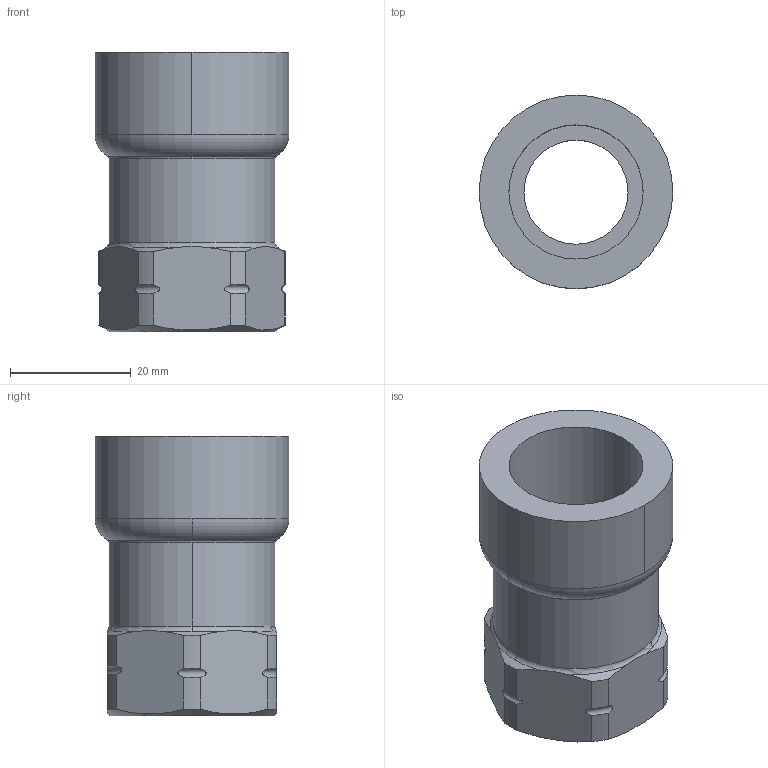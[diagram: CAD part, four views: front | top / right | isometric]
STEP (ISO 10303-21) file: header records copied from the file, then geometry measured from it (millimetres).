
FILE_DESCRIPTION(('Creo Elements/Direct Modeling STEP Export'),'2;1');
FILE_NAME('C9402_1-2.stp','2020-06-08T14:31:55',(''),(''),'PTC Creo Elements/Direct Modeling STEP processor for AP214 (Solid Model)','PTC Creo Elements/Direct Modeling 19.0C 15-Aug-2015 (C) Parametric Technology GmbH','');
FILE_SCHEMA(('AUTOMOTIVE_DESIGN { 1 0 10303 214 1 1 1 1 }'));
Length unit declared in the file: millimetre
Products named in the file (2): C9402_1-2
Assembly tree (1 placements, depth 2):
  C9402_1-2
    C9402_1-2
Bounding box: 32.05 x 32.05 x 46.28 mm (x, y, z)
Volume: 16325.2 mm3; surface area: 8327 mm2
Topology: 1 solids, 1 shells, 54 faces, 150 edges, 100 vertices
Faces by surface type: cylinder 20, cone 12, torus 12, plane 10
Entity records: 4387 total; most frequent: CARTESIAN_POINT 3046, ORIENTED_EDGE 300, DIRECTION 232, EDGE_CURVE 150, AXIS2_PLACEMENT_3D 103, VERTEX_POINT 100, EDGE_LOOP 58, FACE_OUTER_BOUND 54
